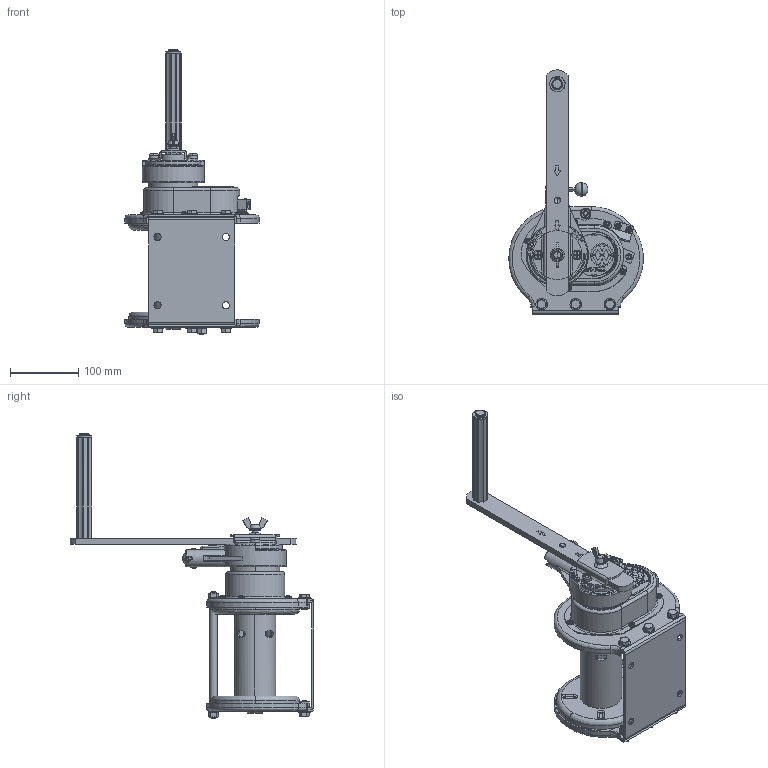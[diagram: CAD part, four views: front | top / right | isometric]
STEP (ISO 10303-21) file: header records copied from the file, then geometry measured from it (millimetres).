
FILE_DESCRIPTION( (''), '2;1');
FILE_NAME ('MR-1.stp','2023-12-22T17:05:28',(''),(''),'spGate 19.8.2 (****-****-****-****)','','');
FILE_SCHEMA (('AUTOMOTIVE_DESIGN'));
Length unit declared in the file: millimetre
Products named in the file (3): Assembly; MR-1-prt0; MR-1-prt1
Assembly tree (2 placements, depth 2):
  Assembly
    MR-1-prt0
    MR-1-prt1
Bounding box: 196.82 x 356.93 x 416.7 mm (x, y, z)
Volume: 1233832.9 mm3; surface area: 458953.8 mm2
Topology: 2 solids, 2 shells, 2620 faces, 6798 edges, 4312 vertices
Faces by surface type: plane 1304, cylinder 849, bspline 360, sphere 107
Entity records: 140612 total; most frequent: CARTESIAN_POINT 24404, ORIENTED_EDGE 13460, DIRECTION 12766, COLOUR_RGB 9352, PRESENTATION_STYLE_ASSIGNMENT 9352, STYLED_ITEM 9352, EDGE_CURVE 6730, DRAUGHTING_PRE_DEFINED_CURVE_FONT 6730
